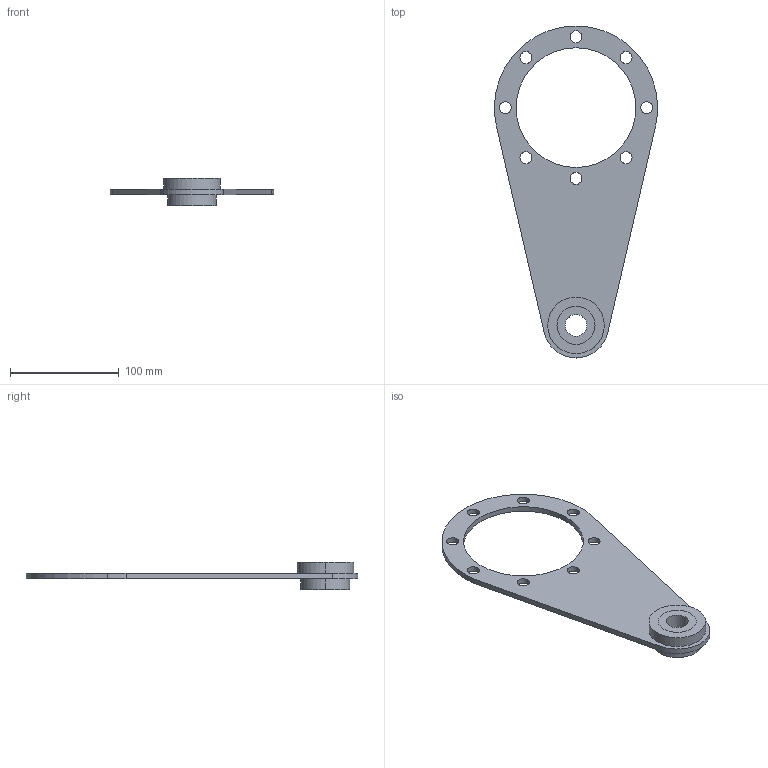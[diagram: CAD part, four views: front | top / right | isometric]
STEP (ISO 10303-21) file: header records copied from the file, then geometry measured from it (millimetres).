
FILE_DESCRIPTION (( 'STEP AP203' ), '1' );
FILE_NAME ('CALM90-TA.STEP', '2014-09-02T03:39:22', ( 'user' ), ( '' ), 'SwSTEP 2.0', 'SolidWorks 2012', '' );
FILE_SCHEMA (( 'CONFIG_CONTROL_DESIGN' ));
Length unit declared in the file: millimetre
Products named in the file (1): CALM90-TA
Bounding box: 150 x 305 x 25 mm (x, y, z)
Volume: 136886 mm3; surface area: 59337.4 mm2
Topology: 2 solids, 2 shells, 40 faces, 102 edges, 68 vertices
Faces by surface type: cylinder 32, plane 8
Entity records: 1369 total; most frequent: DIRECTION 248, CARTESIAN_POINT 211, ORIENTED_EDGE 204, AXIS2_PLACEMENT_3D 105, EDGE_CURVE 102, VERTEX_POINT 68, CIRCLE 64, EDGE_LOOP 64
